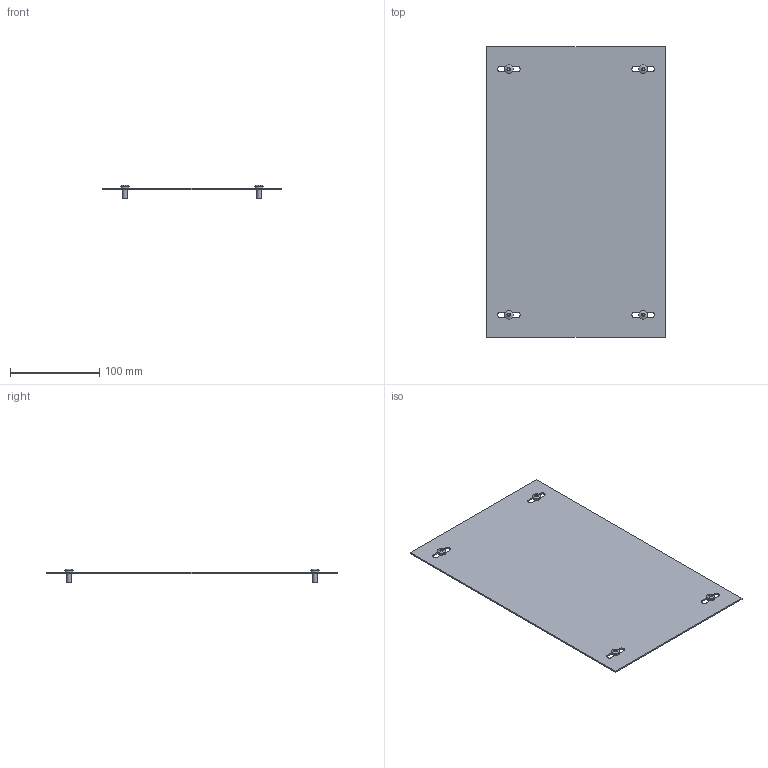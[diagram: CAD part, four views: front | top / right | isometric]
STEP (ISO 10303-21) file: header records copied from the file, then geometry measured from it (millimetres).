
FILE_DESCRIPTION(('Open CASCADE Model'),'2;1');
FILE_NAME('Open CASCADE Shape Model','2025-03-28T17:53:16',('Author'),( 'Open CASCADE'),'Open CASCADE STEP processor 7.8','Open CASCADE 7.8' ,'Unknown');
FILE_SCHEMA(('AUTOMOTIVE_DESIGN { 1 0 10303 214 1 1 1 1 }'));
Length unit declared in the file: millimetre
Products named in the file (3): Compound1; Solid1; Solid2
Assembly tree (5 placements, depth 2):
  Compound1
    Solid1
    Solid2  x4
Bounding box: 200 x 325 x 15.56 mm (x, y, z)
Volume: 98275.7 mm3; surface area: 132392.5 mm2
Topology: 5 solids, 5 shells, 86 faces, 180 edges, 108 vertices
Faces by surface type: plane 46, cylinder 16, torus 8, cone 8, sphere 4, bspline 4
Full cylindrical faces by diameter (mm): 5 x4, 9.5 x4
Entity records: 1508 total; most frequent: CARTESIAN_POINT 562, DIRECTION 190, ORIENTED_EDGE 178, EDGE_CURVE 89, AXIS2_PLACEMENT_3D 73, VERTEX_POINT 57, FACE_BOUND 48, EDGE_LOOP 48
